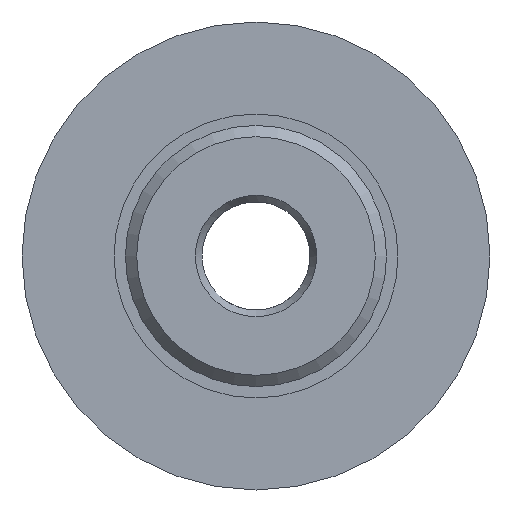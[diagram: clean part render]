
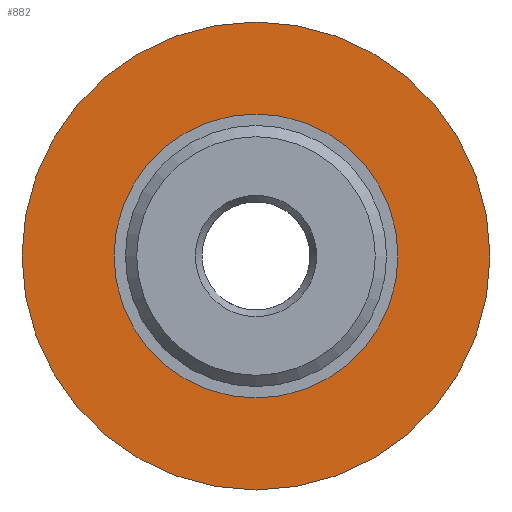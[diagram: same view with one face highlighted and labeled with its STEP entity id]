
A CAD part, left-side view. The second image highlights one B-rep face of the part: STEP entity #882.
In plain terms, the highlighted planar face has unit normal (-1, 0, 0).
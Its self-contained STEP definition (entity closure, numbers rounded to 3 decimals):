
#54 = CARTESIAN_POINT ( 'NONE',  ( -9.08, 0.138, 0. ) ) ;
#56 = PLANE ( 'NONE',  #163 ) ;
#58 = DIRECTION ( 'NONE',  ( 1., 0., 0. ) ) ;
#59 = DIRECTION ( 'NONE',  ( 0., 0., -1. ) ) ;
#98 = FACE_OUTER_BOUND ( 'NONE', #1016, .T. ) ;
#103 = FACE_BOUND ( 'NONE', #1015, .T. ) ;
#143 = VERTEX_POINT ( 'NONE', #1183 ) ;
#163 = AXIS2_PLACEMENT_3D ( 'NONE', #54, #58, #59 ) ;
#199 = AXIS2_PLACEMENT_3D ( 'NONE', #1249, #1250, #1251 ) ;
#223 = AXIS2_PLACEMENT_3D ( 'NONE', #965, #615, #614 ) ;
#227 = EDGE_CURVE ( 'NONE', #143, #143, #1163, .T. ) ;
#278 = EDGE_CURVE ( 'NONE', #761, #761, #1122, .T. ) ;
#614 = DIRECTION ( 'NONE',  ( 0., 0., -1. ) ) ;
#615 = DIRECTION ( 'NONE',  ( 1., 0., 0. ) ) ;
#761 = VERTEX_POINT ( 'NONE', #1214 ) ;
#882 = ADVANCED_FACE ( 'NONE', ( #98, #103 ), #56, .F. ) ;
#922 = ORIENTED_EDGE ( 'NONE', *, *, #278, .T. ) ;
#923 = ORIENTED_EDGE ( 'NONE', *, *, #227, .F. ) ;
#965 = CARTESIAN_POINT ( 'NONE',  ( -9.08, 0.138, 0. ) ) ;
#1015 = EDGE_LOOP ( 'NONE', ( #922 ) ) ;
#1016 = EDGE_LOOP ( 'NONE', ( #923 ) ) ;
#1122 = CIRCLE ( 'NONE', #199, 12.5 ) ;
#1163 = CIRCLE ( 'NONE', #223, 20.6 ) ;
#1183 = CARTESIAN_POINT ( 'NONE',  ( -9.08, 0.138, -20.6 ) ) ;
#1214 = CARTESIAN_POINT ( 'NONE',  ( -9.08, 0.138, -12.5 ) ) ;
#1249 = CARTESIAN_POINT ( 'NONE',  ( -9.08, 0.138, 0. ) ) ;
#1250 = DIRECTION ( 'NONE',  ( 1., 0., 0. ) ) ;
#1251 = DIRECTION ( 'NONE',  ( 0., 0., -1. ) ) ;
